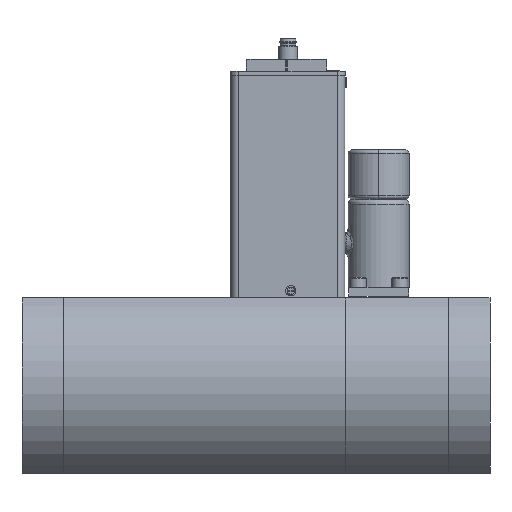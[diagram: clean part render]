
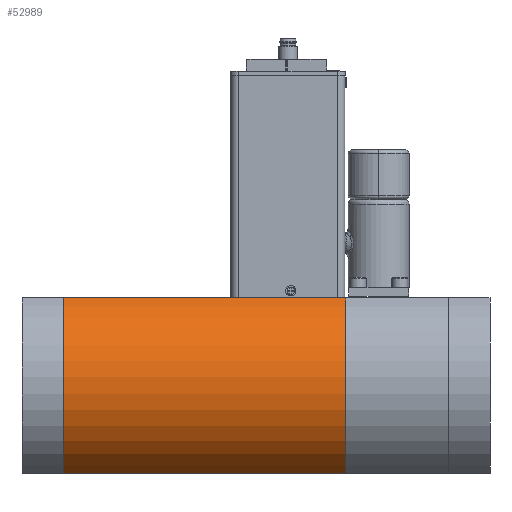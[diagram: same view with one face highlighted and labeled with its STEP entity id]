
A CAD part, front view. The second image highlights one B-rep face of the part: STEP entity #52989.
In plain terms, the highlighted cylindrical face has radius 42 mm (diameter 84 mm), a partial arc.
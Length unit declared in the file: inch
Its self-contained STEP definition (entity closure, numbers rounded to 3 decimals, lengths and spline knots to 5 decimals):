
#3850 = DIRECTION ( 'NONE',  ( -1., 0., 0. ) ) ;
#5331 = CIRCLE ( 'NONE', #30344, 1.65354 ) ;
#9381 = VECTOR ( 'NONE', #73949, 39.37008 ) ;
#11087 = FACE_OUTER_BOUND ( 'NONE', #15684, .T. ) ;
#15684 = EDGE_LOOP ( 'NONE', ( #31722, #70228, #15867, #50863 ) ) ;
#15867 = ORIENTED_EDGE ( 'NONE', *, *, #36767, .T. ) ;
#15930 = CIRCLE ( 'NONE', #53496, 1.65354 ) ;
#16755 = CARTESIAN_POINT ( 'NONE',  ( -2.72824, -0.02996, -1.45201 ) ) ;
#17360 = DIRECTION ( 'NONE',  ( 1., 0., 0. ) ) ;
#17797 = VERTEX_POINT ( 'NONE', #16755 ) ;
#20609 = VERTEX_POINT ( 'NONE', #59193 ) ;
#22148 = VERTEX_POINT ( 'NONE', #54787 ) ;
#22781 = LINE ( 'NONE', #51408, #55791 ) ;
#23848 = DIRECTION ( 'NONE',  ( -1., 0., 0. ) ) ;
#30344 = AXIS2_PLACEMENT_3D ( 'NONE', #64978, #23848, #41839 ) ;
#31722 = ORIENTED_EDGE ( 'NONE', *, *, #45374, .T. ) ;
#32332 = EDGE_CURVE ( 'NONE', #22148, #20609, #5331, .T. ) ;
#33162 = LINE ( 'NONE', #39426, #9381 ) ;
#34623 = CYLINDRICAL_SURFACE ( 'NONE', #38891, 1.65354 ) ;
#36767 = EDGE_CURVE ( 'NONE', #17797, #22148, #33162, .T. ) ;
#36791 = VERTEX_POINT ( 'NONE', #58588 ) ;
#38891 = AXIS2_PLACEMENT_3D ( 'NONE', #77350, #17360, #59284 ) ;
#39426 = CARTESIAN_POINT ( 'NONE',  ( -2.72824, -0.02996, -1.45201 ) ) ;
#41839 = DIRECTION ( 'NONE',  ( 0., 0., 1. ) ) ;
#45374 = EDGE_CURVE ( 'NONE', #20609, #36791, #22781, .T. ) ;
#46689 = DIRECTION ( 'NONE',  ( -1., 0., 0. ) ) ;
#50863 = ORIENTED_EDGE ( 'NONE', *, *, #32332, .T. ) ;
#51408 = CARTESIAN_POINT ( 'NONE',  ( -12.72824, -0.02996, 1.485 ) ) ;
#52989 = ADVANCED_FACE ( 'NONE', ( #11087 ), #34623, .T. ) ;
#53496 = AXIS2_PLACEMENT_3D ( 'NONE', #56754, #3850, #69320 ) ;
#54787 = CARTESIAN_POINT ( 'NONE',  ( 1.99617, -0.02996, -1.45201 ) ) ;
#55791 = VECTOR ( 'NONE', #46689, 39.37008 ) ;
#56754 = CARTESIAN_POINT ( 'NONE',  ( -2.72824, 0.73011, 0.0165 ) ) ;
#58588 = CARTESIAN_POINT ( 'NONE',  ( -2.72824, -0.02996, 1.485 ) ) ;
#59193 = CARTESIAN_POINT ( 'NONE',  ( 1.99617, -0.02996, 1.485 ) ) ;
#59284 = DIRECTION ( 'NONE',  ( 0., 0., 1. ) ) ;
#64978 = CARTESIAN_POINT ( 'NONE',  ( 1.99617, 0.73011, 0.0165 ) ) ;
#69320 = DIRECTION ( 'NONE',  ( 0., 0., 1. ) ) ;
#70228 = ORIENTED_EDGE ( 'NONE', *, *, #70513, .F. ) ;
#70513 = EDGE_CURVE ( 'NONE', #17797, #36791, #15930, .T. ) ;
#73949 = DIRECTION ( 'NONE',  ( 1., 0., 0. ) ) ;
#77350 = CARTESIAN_POINT ( 'NONE',  ( -2.72824, 0.73011, 0.0165 ) ) ;
